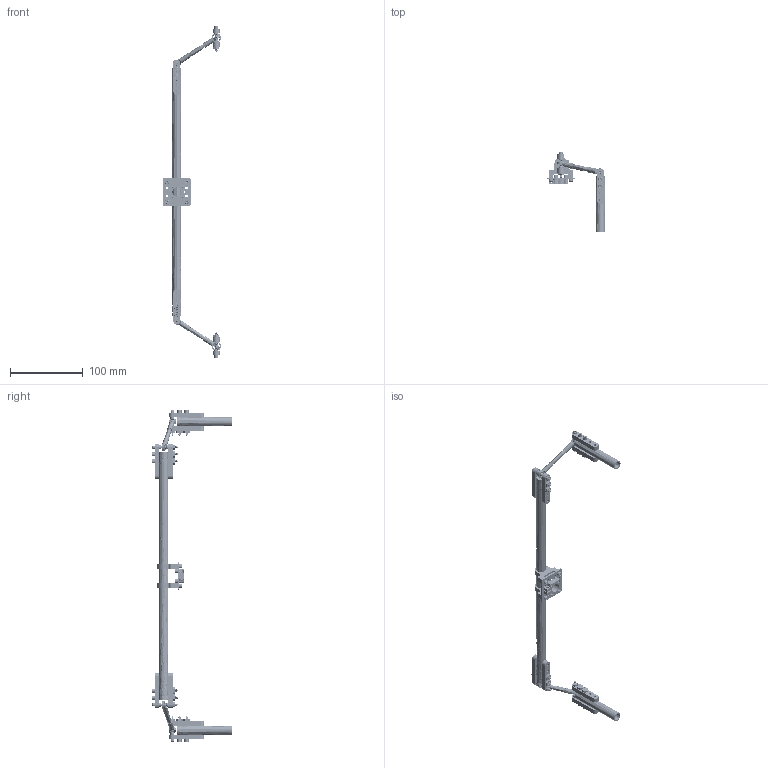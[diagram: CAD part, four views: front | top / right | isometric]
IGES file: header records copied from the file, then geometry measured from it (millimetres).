
Start section: SolidWorks IGES file using analytic representation for surfaces
Global section: file name: C:\Users\ejunkins\Desktop\osr\Mechanical\Differential Pivot\CAD\Differential Pivot Assembly.IGS; native system: SolidWorks 2016; preprocessor: SolidWorks 2016; author: ejunkins; date: 180403.155901; units: inch
Bounding box: 79.79 x 110.21 x 457.37 mm (x, y, z)
Surface area: 74728.5 mm2 (no closed solid volume)
Topology: 0 solids, 0 shells, 4587 faces, 72846 edges, 72786 vertices
Faces by surface type: revolution 3937, bspline 650
